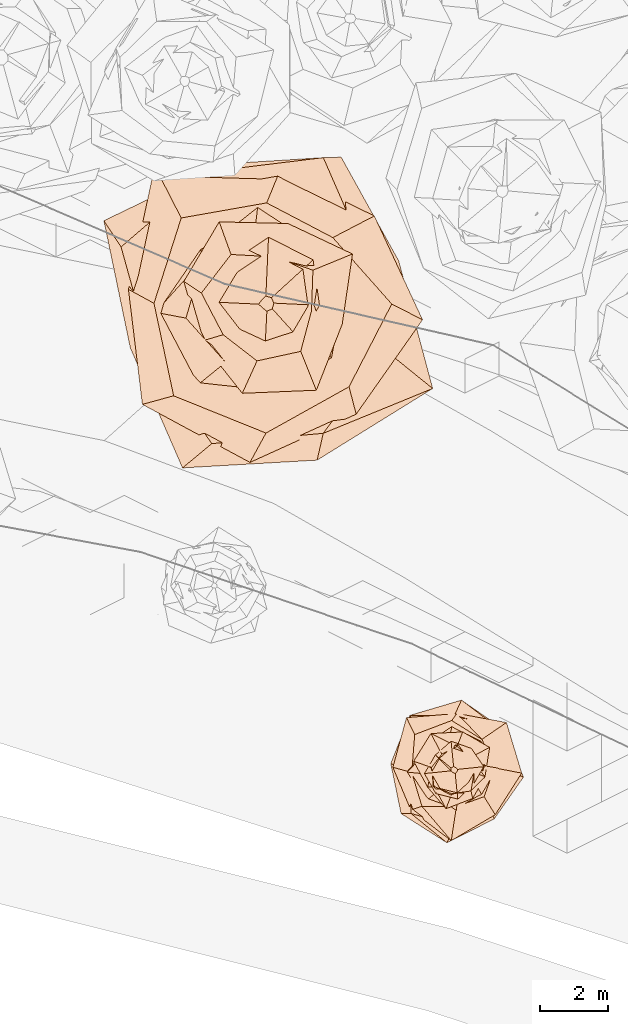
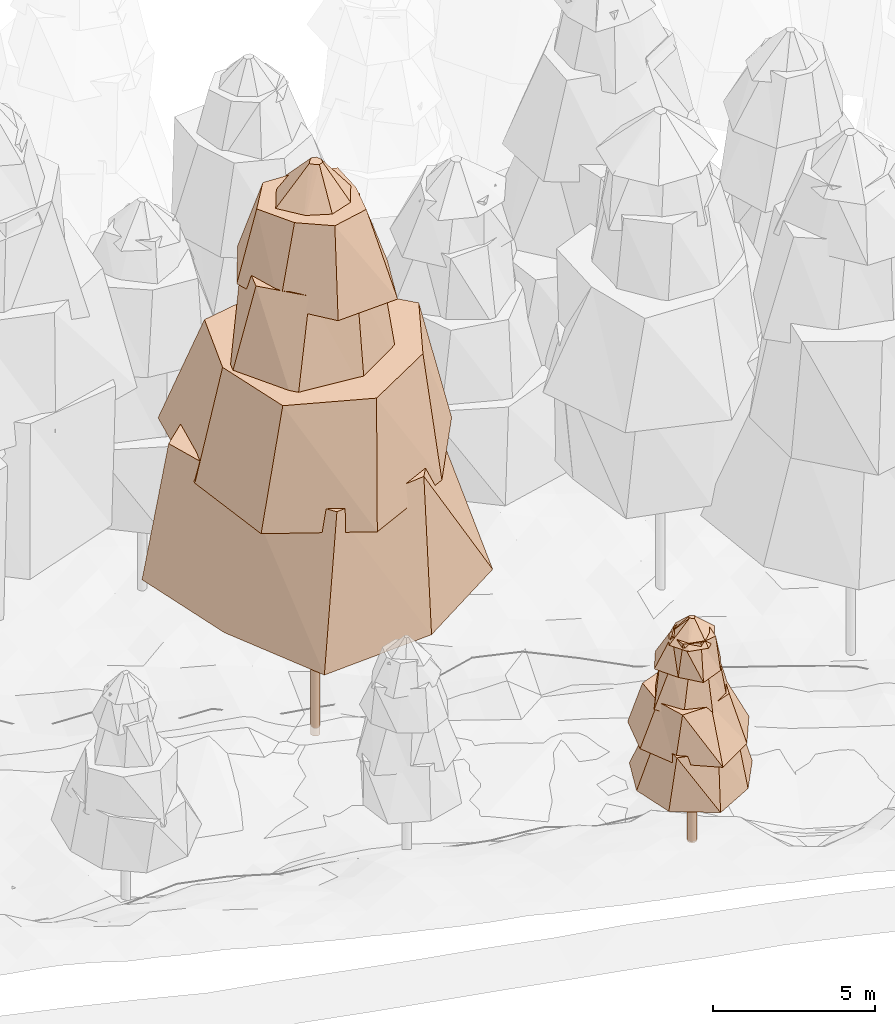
# Not in any storey, part 50 of 88: 2 geographic elements.
"""IFC4 model written with IfcOpenShell, lengths in metres."""

from ifc_helpers import new_model, si_unit, frame, origin_with_axes, place, context, subcontext, project, spatial, circle, extrude, faceted_brep, element, save


model = new_model("IFC4")

# Units and contexts
model_context = context("Model", 3, precision=1e-05, world=origin_with_axes())
body_context = subcontext(model_context, "Body", "Model", "MODEL_VIEW")
ifc_project = project(units=[si_unit("LENGTHUNIT", "METRE"), si_unit("AREAUNIT", "SQUARE_METRE"), si_unit("VOLUMEUNIT", "CUBIC_METRE"), si_unit("PLANEANGLEUNIT", "RADIAN")], contexts=[model_context])

# Sites
site_1_placement = place(None, origin_with_axes())
site_1 = spatial("IfcSite", under=ifc_project, at=site_1_placement, Name="CH907857693633", CompositionType="ELEMENT")
site_2_placement = place(None, origin_with_axes())
site_2 = spatial("IfcSite", under=site_1, at=site_2_placement, Name="Simulated_forest", CompositionType="ELEMENT")

# Geographic elements
geographic_element_1_placement = place(None, frame((184.690816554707, 70.4393623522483, 3.1416015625), z_axis=(0.0, 0.0, 1.0), x_axis=(1.0, 0.0, 0.0)))
element("IfcGeographicElement", 1, at=geographic_element_1_placement, inside=site_2, Name="Tree_SIMULATED_WOODED_AREA", ObjectType="VEGETATION", PredefinedType="USERDEFINED", context=body_context, shape_type="Brep", body=[
    extrude(circle(Radius=0.15), origin_with_axes(), (0.0, 0.0, 1.0), 2.40195365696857),
    faceted_brep([(2.02597223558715, -0.205318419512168, 2.40195365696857), (1.16849866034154, -1.43204606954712, 2.40195365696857), (-0.216378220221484, -2.1351044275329, 2.40195365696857), (-1.56460701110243, -1.2766636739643, 2.40195365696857), (-1.86696859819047, 0.189204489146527, 2.40195365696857), (-1.309375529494, 1.6046968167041, 2.40195365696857), (0.20805114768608, 2.05293733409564, 2.40195365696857), (1.45586411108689, 1.18793333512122, 2.40195365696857), (1.25750459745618, 1.25499628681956, 4.31051613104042), (0.00160708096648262, 1.60976566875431, 4.31051613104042), (-0.900114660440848, 0.901913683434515, 4.31051613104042), (-1.27329548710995, 0.00127117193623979, 4.31051613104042), (-1.27488134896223, -1.27233837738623, 4.31051613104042), (-0.00162413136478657, -1.62684455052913, 4.31051613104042), (1.00443203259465, -1.00643955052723, 4.31051613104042), (1.51371334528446, -0.00151118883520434, 4.31051613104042), (1.45586411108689, 1.18793333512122, 2.40195365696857), (0.20805114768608, 2.05293733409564, 2.40195365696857), (0.00160708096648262, 1.60976566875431, 4.31051613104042), (1.25750459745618, 1.25499628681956, 4.31051613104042), (0.20805114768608, 2.05293733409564, 2.40195365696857), (-1.309375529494, 1.6046968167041, 2.40195365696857), (-0.900114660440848, 0.901913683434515, 4.31051613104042), (0.00160708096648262, 1.60976566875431, 4.31051613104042), (-1.309375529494, 1.6046968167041, 2.40195365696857), (-1.86696859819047, 0.189204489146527, 2.40195365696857), (-1.27329548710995, 0.00127117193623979, 4.31051613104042), (-0.900114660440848, 0.901913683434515, 4.31051613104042), (-1.86696859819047, 0.189204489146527, 2.40195365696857), (-1.56460701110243, -1.2766636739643, 2.40195365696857), (-1.27488134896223, -1.27233837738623, 4.31051613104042), (-1.27329548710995, 0.00127117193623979, 4.31051613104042), (-1.56460701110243, -1.2766636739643, 2.40195365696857), (-0.216378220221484, -2.1351044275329, 2.40195365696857), (-0.00162413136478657, -1.62684455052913, 4.31051613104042), (-1.27488134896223, -1.27233837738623, 4.31051613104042), (-0.216378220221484, -2.1351044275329, 2.40195365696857), (1.16849866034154, -1.43204606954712, 2.40195365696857), (1.00443203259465, -1.00643955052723, 4.31051613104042), (-0.00162413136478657, -1.62684455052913, 4.31051613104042), (1.16849866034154, -1.43204606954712, 2.40195365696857), (2.02597223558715, -0.205318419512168, 2.40195365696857), (1.51371334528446, -0.00151118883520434, 4.31051613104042), (1.00443203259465, -1.00643955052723, 4.31051613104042), (2.02597223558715, -0.205318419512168, 2.40195365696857), (1.45586411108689, 1.18793333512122, 2.40195365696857), (1.25750459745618, 1.25499628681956, 4.31051613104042), (1.51371334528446, -0.00151118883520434, 4.31051613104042)], [[[0, 1, 2, 3, 4, 5, 6, 7]], [[8, 9, 10, 11, 12, 13, 14, 15]], [[16, 17, 18, 19]], [[20, 21, 22, 23]], [[24, 25, 26, 27]], [[28, 29, 30, 31]], [[32, 33, 34, 35]], [[36, 37, 38, 39]], [[40, 41, 42, 43]], [[44, 45, 46, 47]]]),
    faceted_brep([(1.97371579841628, -0.0887684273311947, 4.02423175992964), (1.19687532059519, -1.30960498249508, 4.02423175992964), (-0.0930873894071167, -2.06974547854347, 4.02423175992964), (-1.27992719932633, -1.16975217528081, 4.02423175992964), (-1.80551979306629, 0.0812037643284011, 4.02423175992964), (-1.40604190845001, 1.5384722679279, 4.02423175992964), (0.0747542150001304, 1.66211770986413, 4.02423175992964), (1.52701132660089, 1.39556751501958, 4.02423175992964), (0.807078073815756, 0.901223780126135, 5.68824289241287), (-0.0801288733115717, 1.45396224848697, 5.68824289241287), (-1.16452982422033, 1.04287803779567, 5.68824289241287), (-1.25325137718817, -0.0690675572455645, 5.68824289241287), (-0.952754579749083, -1.06389345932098, 5.68824289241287), (0.0590496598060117, -1.07147364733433, 5.68824289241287), (0.87143882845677, -0.78040458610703, 5.68824289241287), (1.17738788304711, 0.0648866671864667, 5.68824289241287), (1.52701132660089, 1.39556751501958, 4.02423175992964), (0.0747542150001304, 1.66211770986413, 4.02423175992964), (-0.0801288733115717, 1.45396224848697, 5.68824289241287), (0.807078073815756, 0.901223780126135, 5.68824289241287), (0.0747542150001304, 1.66211770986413, 4.02423175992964), (-1.40604190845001, 1.5384722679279, 4.02423175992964), (-1.16452982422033, 1.04287803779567, 5.68824289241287), (-0.0801288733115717, 1.45396224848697, 5.68824289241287), (-1.40604190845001, 1.5384722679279, 4.02423175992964), (-1.80551979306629, 0.0812037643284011, 4.02423175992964), (-1.25325137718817, -0.0690675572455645, 5.68824289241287), (-1.16452982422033, 1.04287803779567, 5.68824289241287), (-1.80551979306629, 0.0812037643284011, 4.02423175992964), (-1.27992719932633, -1.16975217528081, 4.02423175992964), (-0.952754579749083, -1.06389345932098, 5.68824289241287), (-1.25325137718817, -0.0690675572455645, 5.68824289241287), (-1.27992719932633, -1.16975217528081, 4.02423175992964), (-0.0930873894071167, -2.06974547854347, 4.02423175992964), (0.0590496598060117, -1.07147364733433, 5.68824289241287), (-0.952754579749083, -1.06389345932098, 5.68824289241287), (-0.0930873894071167, -2.06974547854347, 4.02423175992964), (1.19687532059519, -1.30960498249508, 4.02423175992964), (0.87143882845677, -0.78040458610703, 5.68824289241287), (0.0590496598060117, -1.07147364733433, 5.68824289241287), (1.19687532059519, -1.30960498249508, 4.02423175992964), (1.97371579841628, -0.0887684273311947, 4.02423175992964), (1.17738788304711, 0.0648866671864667, 5.68824289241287), (0.87143882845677, -0.78040458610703, 5.68824289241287), (1.97371579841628, -0.0887684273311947, 4.02423175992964), (1.52701132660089, 1.39556751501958, 4.02423175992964), (0.807078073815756, 0.901223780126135, 5.68824289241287), (1.17738788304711, 0.0648866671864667, 5.68824289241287)], [[[0, 1, 2, 3, 4, 5, 6, 7]], [[8, 9, 10, 11, 12, 13, 14, 15]], [[16, 17, 18, 19]], [[20, 21, 22, 23]], [[24, 25, 26, 27]], [[28, 29, 30, 31]], [[32, 33, 34, 35]], [[36, 37, 38, 39]], [[40, 41, 42, 43]], [[44, 45, 46, 47]]]),
    faceted_brep([(0.823832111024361, -0.755994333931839, 5.43864122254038), (0.0516734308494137, -1.2033863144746, 5.43864122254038), (-0.82873021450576, -0.903094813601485, 5.43864122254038), (-1.38570908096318, -0.0595023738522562, 5.43864122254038), (-0.871763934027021, 0.799979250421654, 5.43864122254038), (-0.0573092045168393, 1.33463389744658, 5.43864122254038), (0.829050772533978, 0.903444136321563, 5.43864122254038), (1.29007662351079, 0.0553959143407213, 5.43864122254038), (0.881822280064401, 0.126889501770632, 6.92878273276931), (0.456953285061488, 0.610563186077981, 6.92878273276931), (-0.141746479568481, 0.98507127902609, 6.92878273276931), (-0.774905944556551, 0.579949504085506, 6.92878273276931), (-0.813542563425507, -0.117064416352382, 6.92878273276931), (-0.423434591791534, -0.565776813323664, 6.92878273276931), (0.106892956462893, -0.742855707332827, 6.92878273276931), (0.67468443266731, -0.504942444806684, 6.92878273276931), (1.29007662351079, 0.0553959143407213, 5.43864122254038), (0.829050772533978, 0.903444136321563, 5.43864122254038), (0.456953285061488, 0.610563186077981, 6.92878273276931), (0.881822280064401, 0.126889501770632, 6.92878273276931), (0.829050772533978, 0.903444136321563, 5.43864122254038), (-0.0573092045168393, 1.33463389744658, 5.43864122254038), (-0.141746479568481, 0.98507127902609, 6.92878273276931), (0.456953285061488, 0.610563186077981, 6.92878273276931), (-0.0573092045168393, 1.33463389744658, 5.43864122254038), (-0.871763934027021, 0.799979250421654, 5.43864122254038), (-0.774905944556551, 0.579949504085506, 6.92878273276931), (-0.141746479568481, 0.98507127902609, 6.92878273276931), (-0.871763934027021, 0.799979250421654, 5.43864122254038), (-1.38570908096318, -0.0595023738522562, 5.43864122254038), (-0.813542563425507, -0.117064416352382, 6.92878273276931), (-0.774905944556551, 0.579949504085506, 6.92878273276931), (-1.38570908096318, -0.0595023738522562, 5.43864122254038), (-0.82873021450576, -0.903094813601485, 5.43864122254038), (-0.423434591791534, -0.565776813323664, 6.92878273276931), (-0.813542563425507, -0.117064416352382, 6.92878273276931), (-0.82873021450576, -0.903094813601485, 5.43864122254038), (0.0516734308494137, -1.2033863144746, 5.43864122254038), (0.106892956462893, -0.742855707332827, 6.92878273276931), (-0.423434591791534, -0.565776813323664, 6.92878273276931), (0.0516734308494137, -1.2033863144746, 5.43864122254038), (0.823832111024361, -0.755994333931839, 5.43864122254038), (0.67468443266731, -0.504942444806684, 6.92878273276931), (0.106892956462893, -0.742855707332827, 6.92878273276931), (0.823832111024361, -0.755994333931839, 5.43864122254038), (1.29007662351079, 0.0553959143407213, 5.43864122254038), (0.881822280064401, 0.126889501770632, 6.92878273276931), (0.67468443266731, -0.504942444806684, 6.92878273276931)], [[[0, 1, 2, 3, 4, 5, 6, 7]], [[8, 9, 10, 11, 12, 13, 14, 15]], [[16, 17, 18, 19]], [[20, 21, 22, 23]], [[24, 25, 26, 27]], [[28, 29, 30, 31]], [[32, 33, 34, 35]], [[36, 37, 38, 39]], [[40, 41, 42, 43]], [[44, 45, 46, 47]]]),
    faceted_brep([(0.897102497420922, -0.194639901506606, 6.70526150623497), (0.535535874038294, -0.832310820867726, 6.70526150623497), (-0.245815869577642, -1.13297442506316, 6.70526150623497), (-0.783970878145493, -0.504432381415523, 6.70526150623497), (-1.19598322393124, 0.259486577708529, 6.70526150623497), (-0.689489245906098, 1.0715796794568, 6.70526150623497), (0.24293749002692, 1.11970786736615, 6.70526150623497), (1.03286954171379, 0.664581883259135, 6.70526150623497), (0.463956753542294, 0.368890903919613, 7.88087926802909), (0.0793965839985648, 0.695573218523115, 7.88087926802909), (-0.370379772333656, 0.465829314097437, 7.88087926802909), (-0.672279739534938, 0.0767377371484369, 7.88087926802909), (-0.601338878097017, -0.478123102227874, 7.88087926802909), (-0.0794101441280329, -0.695692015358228, 7.88087926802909), (0.486884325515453, -0.612357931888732, 7.88087926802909), (0.578964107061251, -0.0660861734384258, 7.88087926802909), (1.03286954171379, 0.664581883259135, 6.70526150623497), (0.24293749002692, 1.11970786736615, 6.70526150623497), (0.0793965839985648, 0.695573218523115, 7.88087926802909), (0.463956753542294, 0.368890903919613, 7.88087926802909), (0.24293749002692, 1.11970786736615, 6.70526150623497), (-0.689489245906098, 1.0715796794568, 6.70526150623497), (-0.370379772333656, 0.465829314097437, 7.88087926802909), (0.0793965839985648, 0.695573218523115, 7.88087926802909), (-0.689489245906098, 1.0715796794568, 6.70526150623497), (-1.19598322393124, 0.259486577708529, 6.70526150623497), (-0.672279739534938, 0.0767377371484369, 7.88087926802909), (-0.370379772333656, 0.465829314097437, 7.88087926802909), (-1.19598322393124, 0.259486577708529, 6.70526150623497), (-0.783970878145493, -0.504432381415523, 6.70526150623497), (-0.601338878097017, -0.478123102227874, 7.88087926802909), (-0.672279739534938, 0.0767377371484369, 7.88087926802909), (-0.783970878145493, -0.504432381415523, 6.70526150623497), (-0.245815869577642, -1.13297442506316, 6.70526150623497), (-0.0794101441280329, -0.695692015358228, 7.88087926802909), (-0.601338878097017, -0.478123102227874, 7.88087926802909), (-0.245815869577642, -1.13297442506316, 6.70526150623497), (0.535535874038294, -0.832310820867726, 6.70526150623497), (0.486884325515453, -0.612357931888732, 7.88087926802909), (-0.0794101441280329, -0.695692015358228, 7.88087926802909), (0.535535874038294, -0.832310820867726, 6.70526150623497), (0.897102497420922, -0.194639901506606, 6.70526150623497), (0.578964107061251, -0.0660861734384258, 7.88087926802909), (0.486884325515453, -0.612357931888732, 7.88087926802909), (0.897102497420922, -0.194639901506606, 6.70526150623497), (1.03286954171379, 0.664581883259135, 6.70526150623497), (0.463956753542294, 0.368890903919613, 7.88087926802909), (0.578964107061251, -0.0660861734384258, 7.88087926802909)], [[[0, 1, 2, 3, 4, 5, 6, 7]], [[8, 9, 10, 11, 12, 13, 14, 15]], [[16, 17, 18, 19]], [[20, 21, 22, 23]], [[24, 25, 26, 27]], [[28, 29, 30, 31]], [[32, 33, 34, 35]], [[36, 37, 38, 39]], [[40, 41, 42, 43]], [[44, 45, 46, 47]]]),
    faceted_brep([(0.550206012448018, -0.435307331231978, 7.70453660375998), (0.09936665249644, -0.852291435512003, 7.70453660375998), (-0.54522043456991, -0.689130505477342, 7.70453660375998), (-0.879711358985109, -0.102563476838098, 7.70453660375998), (-0.559335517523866, 0.442530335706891, 7.70453660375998), (-0.0987268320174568, 0.846803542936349, 7.70453660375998), (0.501974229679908, 0.63446953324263, 7.70453660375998), (0.860460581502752, 0.100319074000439, 7.70453660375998), (0.0960764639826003, 0.0210878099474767, 8.40693649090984), (0.0437753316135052, 0.0683957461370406, 8.40693649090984), (-0.0235960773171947, 0.107504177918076, 8.40693649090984), (-0.0968941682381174, 0.0620151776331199, 8.40693649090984), (-0.102957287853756, -0.0225980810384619, 8.40693649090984), (-0.0436762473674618, -0.0682409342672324, 8.40693649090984), (0.0240430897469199, -0.10954077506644, 8.40693649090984), (0.0755966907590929, -0.0483841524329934, 8.40693649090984), (0.860460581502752, 0.100319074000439, 7.70453660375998), (0.501974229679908, 0.63446953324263, 7.70453660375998), (0.0437753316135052, 0.0683957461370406, 8.40693649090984), (0.0960764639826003, 0.0210878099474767, 8.40693649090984), (0.501974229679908, 0.63446953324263, 7.70453660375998), (-0.0987268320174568, 0.846803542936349, 7.70453660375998), (-0.0235960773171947, 0.107504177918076, 8.40693649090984), (0.0437753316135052, 0.0683957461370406, 8.40693649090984), (-0.0987268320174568, 0.846803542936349, 7.70453660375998), (-0.559335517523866, 0.442530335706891, 7.70453660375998), (-0.0968941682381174, 0.0620151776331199, 8.40693649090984), (-0.0235960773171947, 0.107504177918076, 8.40693649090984), (-0.559335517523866, 0.442530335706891, 7.70453660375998), (-0.879711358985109, -0.102563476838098, 7.70453660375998), (-0.102957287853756, -0.0225980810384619, 8.40693649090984), (-0.0968941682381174, 0.0620151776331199, 8.40693649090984), (-0.879711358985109, -0.102563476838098, 7.70453660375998), (-0.54522043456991, -0.689130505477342, 7.70453660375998), (-0.0436762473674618, -0.0682409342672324, 8.40693649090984), (-0.102957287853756, -0.0225980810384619, 8.40693649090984), (-0.54522043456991, -0.689130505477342, 7.70453660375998), (0.09936665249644, -0.852291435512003, 7.70453660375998), (0.0240430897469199, -0.10954077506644, 8.40693649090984), (-0.0436762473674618, -0.0682409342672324, 8.40693649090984), (0.09936665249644, -0.852291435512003, 7.70453660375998), (0.550206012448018, -0.435307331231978, 7.70453660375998), (0.0755966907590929, -0.0483841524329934, 8.40693649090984), (0.0240430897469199, -0.10954077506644, 8.40693649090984), (0.550206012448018, -0.435307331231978, 7.70453660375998), (0.860460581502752, 0.100319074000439, 7.70453660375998), (0.0960764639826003, 0.0210878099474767, 8.40693649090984), (0.0755966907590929, -0.0483841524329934, 8.40693649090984)], [[[0, 1, 2, 3, 4, 5, 6, 7]], [[8, 9, 10, 11, 12, 13, 14, 15]], [[16, 17, 18, 19]], [[20, 21, 22, 23]], [[24, 25, 26, 27]], [[28, 29, 30, 31]], [[32, 33, 34, 35]], [[36, 37, 38, 39]], [[40, 41, 42, 43]], [[44, 45, 46, 47]]]),
])
geographic_element_2_placement = place(None, frame((179.173681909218, 84.1255486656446, 0.79241943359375), z_axis=(0.0, 0.0, 1.0), x_axis=(1.0, 0.0, 0.0)))
element("IfcGeographicElement", 2, at=geographic_element_2_placement, inside=site_2, Name="Tree_SIMULATED_FOREST_DENSE", ObjectType="VEGETATION", PredefinedType="USERDEFINED", context=body_context, shape_type="Brep", body=[
    extrude(circle(Radius=0.15), origin_with_axes(), (0.0, 0.0, 1.0), 5.97940122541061),
    faceted_brep([(4.87872126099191, -2.49029499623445, 5.97940122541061), (1.48842941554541, -4.59225420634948, 5.97940122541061), (-2.46030138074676, -4.81996095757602, 5.97940122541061), (-3.99329913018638, -1.29429766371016, 5.97940122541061), (-4.7669515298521, 2.43324324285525, 5.97940122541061), (-1.32742981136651, 4.09552181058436, 5.97940122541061), (2.19398798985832, 4.29822806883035, 5.97940122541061), (3.88132640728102, 1.25800535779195, 5.97940122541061), (2.97027213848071, 1.303115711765, 11.3956371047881), (1.67109693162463, 4.28348846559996, 11.3956371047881), (-1.69848899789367, 3.87147089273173, 11.3956371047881), (-4.26370110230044, 1.66337738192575, 11.3956371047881), (-3.38690626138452, -1.48590114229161, 11.3956371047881), (-1.60266531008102, -4.10807909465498, 11.3956371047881), (1.669049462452, -3.80436754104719, 11.3956371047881), (3.47470274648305, -1.35556921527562, 11.3956371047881), (3.88132640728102, 1.25800535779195, 5.97940122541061), (2.19398798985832, 4.29822806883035, 5.97940122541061), (1.67109693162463, 4.28348846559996, 11.3956371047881), (2.97027213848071, 1.303115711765, 11.3956371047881), (2.19398798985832, 4.29822806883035, 5.97940122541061), (-1.32742981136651, 4.09552181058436, 5.97940122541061), (-1.69848899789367, 3.87147089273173, 11.3956371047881), (1.67109693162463, 4.28348846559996, 11.3956371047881), (-1.32742981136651, 4.09552181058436, 5.97940122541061), (-4.7669515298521, 2.43324324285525, 5.97940122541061), (-4.26370110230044, 1.66337738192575, 11.3956371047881), (-1.69848899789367, 3.87147089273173, 11.3956371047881), (-4.7669515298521, 2.43324324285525, 5.97940122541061), (-3.99329913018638, -1.29429766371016, 5.97940122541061), (-3.38690626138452, -1.48590114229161, 11.3956371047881), (-4.26370110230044, 1.66337738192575, 11.3956371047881), (-3.99329913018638, -1.29429766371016, 5.97940122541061), (-2.46030138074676, -4.81996095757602, 5.97940122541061), (-1.60266531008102, -4.10807909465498, 11.3956371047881), (-3.38690626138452, -1.48590114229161, 11.3956371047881), (-2.46030138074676, -4.81996095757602, 5.97940122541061), (1.48842941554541, -4.59225420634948, 5.97940122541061), (1.669049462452, -3.80436754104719, 11.3956371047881), (-1.60266531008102, -4.10807909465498, 11.3956371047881), (1.48842941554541, -4.59225420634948, 5.97940122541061), (4.87872126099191, -2.49029499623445, 5.97940122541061), (3.47470274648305, -1.35556921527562, 11.3956371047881), (1.669049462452, -3.80436754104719, 11.3956371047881), (4.87872126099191, -2.49029499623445, 5.97940122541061), (3.88132640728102, 1.25800535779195, 5.97940122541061), (2.97027213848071, 1.303115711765, 11.3956371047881), (3.47470274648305, -1.35556921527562, 11.3956371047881)], [[[0, 1, 2, 3, 4, 5, 6, 7]], [[8, 9, 10, 11, 12, 13, 14, 15]], [[16, 17, 18, 19]], [[20, 21, 22, 23]], [[24, 25, 26, 27]], [[28, 29, 30, 31]], [[32, 33, 34, 35]], [[36, 37, 38, 39]], [[40, 41, 42, 43]], [[44, 45, 46, 47]]]),
    faceted_brep([(4.5817176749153, -0.473897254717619, 10.5832017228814), (2.63494272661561, -3.24290120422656, 10.5832017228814), (-0.481792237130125, -4.65804768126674, 10.5832017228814), (-3.63772042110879, -2.95574374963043, 10.5832017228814), (-4.04772445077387, 0.418665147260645, 10.5832017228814), (-3.27493496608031, 4.03055840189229, 10.5832017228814), (0.405767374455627, 3.92302663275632, 10.5832017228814), (3.16689605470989, 2.57318653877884, 10.5832017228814), (1.94978214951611, 1.93786364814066, 14.9304467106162), (0.00906053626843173, 2.95541818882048, 14.9304467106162), (-2.49822519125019, 2.51359010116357, 14.9304467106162), (-3.29742019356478, 0.0101090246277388, 14.9304467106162), (-2.72093121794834, -2.70429888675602, 14.9304467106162), (-0.0116428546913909, -3.79773376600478, 14.9304467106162), (2.42486786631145, -2.43978160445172, 14.9304467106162), (3.67832069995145, -0.0112767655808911, 14.9304467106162), (3.16689605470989, 2.57318653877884, 10.5832017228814), (0.405767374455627, 3.92302663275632, 10.5832017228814), (0.00906053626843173, 2.95541818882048, 14.9304467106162), (1.94978214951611, 1.93786364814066, 14.9304467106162), (0.405767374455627, 3.92302663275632, 10.5832017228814), (-3.27493496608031, 4.03055840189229, 10.5832017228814), (-2.49822519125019, 2.51359010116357, 14.9304467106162), (0.00906053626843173, 2.95541818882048, 14.9304467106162), (-3.27493496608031, 4.03055840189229, 10.5832017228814), (-4.04772445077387, 0.418665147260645, 10.5832017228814), (-3.29742019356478, 0.0101090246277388, 14.9304467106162), (-2.49822519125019, 2.51359010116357, 14.9304467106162), (-4.04772445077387, 0.418665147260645, 10.5832017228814), (-3.63772042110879, -2.95574374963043, 10.5832017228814), (-2.72093121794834, -2.70429888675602, 14.9304467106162), (-3.29742019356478, 0.0101090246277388, 14.9304467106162), (-3.63772042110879, -2.95574374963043, 10.5832017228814), (-0.481792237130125, -4.65804768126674, 10.5832017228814), (-0.0116428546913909, -3.79773376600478, 14.9304467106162), (-2.72093121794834, -2.70429888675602, 14.9304467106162), (-0.481792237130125, -4.65804768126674, 10.5832017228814), (2.63494272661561, -3.24290120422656, 10.5832017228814), (2.42486786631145, -2.43978160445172, 14.9304467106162), (-0.0116428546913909, -3.79773376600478, 14.9304467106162), (2.63494272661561, -3.24290120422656, 10.5832017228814), (4.5817176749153, -0.473897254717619, 10.5832017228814), (3.67832069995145, -0.0112767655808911, 14.9304467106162), (2.42486786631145, -2.43978160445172, 14.9304467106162), (4.5817176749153, -0.473897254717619, 10.5832017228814), (3.16689605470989, 2.57318653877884, 10.5832017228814), (1.94978214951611, 1.93786364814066, 14.9304467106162), (3.67832069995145, -0.0112767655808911, 14.9304467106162)], [[[0, 1, 2, 3, 4, 5, 6, 7]], [[8, 9, 10, 11, 12, 13, 14, 15]], [[16, 17, 18, 19]], [[20, 21, 22, 23]], [[24, 25, 26, 27]], [[28, 29, 30, 31]], [[32, 33, 34, 35]], [[36, 37, 38, 39]], [[40, 41, 42, 43]], [[44, 45, 46, 47]]]),
    faceted_brep([(1.96955968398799, -1.68319091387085, 14.278359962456), (0.212354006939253, -2.70866207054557, 14.278359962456), (-2.09827707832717, -2.45526630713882, 14.278359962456), (-3.25665933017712, -0.255315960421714, 14.278359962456), (-1.93954612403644, 1.65754124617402, 14.278359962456), (-0.235517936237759, 3.00412744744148, 14.278359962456), (1.56318126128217, 1.82913225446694, 14.278359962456), (2.33564292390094, 0.183110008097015, 14.278359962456), (2.16215048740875, 0.38951110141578, 17.9288929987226), (1.02094364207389, 1.46961795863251, 17.9288929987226), (-0.356082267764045, 1.97658923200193, 17.9288929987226), (-1.86162488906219, 1.29327086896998, 17.9288929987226), (-2.3589485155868, -0.424964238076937, 17.9288929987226), (-1.19636002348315, -1.72212461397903, 17.9288929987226), (0.351516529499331, -1.95124511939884, 17.9288929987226), (1.63754032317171, -1.13759931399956, 17.9288929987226), (2.33564292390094, 0.183110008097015, 14.278359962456), (1.56318126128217, 1.82913225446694, 14.278359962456), (1.02094364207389, 1.46961795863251, 17.9288929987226), (2.16215048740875, 0.38951110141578, 17.9288929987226), (1.56318126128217, 1.82913225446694, 14.278359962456), (-0.235517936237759, 3.00412744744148, 14.278359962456), (-0.356082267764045, 1.97658923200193, 17.9288929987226), (1.02094364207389, 1.46961795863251, 17.9288929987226), (-0.235517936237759, 3.00412744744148, 14.278359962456), (-1.93954612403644, 1.65754124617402, 14.278359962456), (-1.86162488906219, 1.29327086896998, 17.9288929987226), (-0.356082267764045, 1.97658923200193, 17.9288929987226), (-1.93954612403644, 1.65754124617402, 14.278359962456), (-3.25665933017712, -0.255315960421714, 14.278359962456), (-2.3589485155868, -0.424964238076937, 17.9288929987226), (-1.86162488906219, 1.29327086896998, 17.9288929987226), (-3.25665933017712, -0.255315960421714, 14.278359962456), (-2.09827707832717, -2.45526630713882, 14.278359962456), (-1.19636002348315, -1.72212461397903, 17.9288929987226), (-2.3589485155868, -0.424964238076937, 17.9288929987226), (-2.09827707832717, -2.45526630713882, 14.278359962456), (0.212354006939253, -2.70866207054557, 14.278359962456), (0.351516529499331, -1.95124511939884, 17.9288929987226), (-1.19636002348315, -1.72212461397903, 17.9288929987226), (0.212354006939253, -2.70866207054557, 14.278359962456), (1.96955968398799, -1.68319091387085, 14.278359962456), (1.63754032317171, -1.13759931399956, 17.9288929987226), (0.351516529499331, -1.95124511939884, 17.9288929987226), (1.96955968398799, -1.68319091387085, 14.278359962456), (2.33564292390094, 0.183110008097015, 14.278359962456), (2.16215048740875, 0.38951110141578, 17.9288929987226), (1.63754032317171, -1.13759931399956, 17.9288929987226)], [[[0, 1, 2, 3, 4, 5, 6, 7]], [[8, 9, 10, 11, 12, 13, 14, 15]], [[16, 17, 18, 19]], [[20, 21, 22, 23]], [[24, 25, 26, 27]], [[28, 29, 30, 31]], [[32, 33, 34, 35]], [[36, 37, 38, 39]], [[40, 41, 42, 43]], [[44, 45, 46, 47]]]),
    faceted_brep([(2.22661416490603, -0.597513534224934, 17.3813130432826), (1.46554855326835, -2.54060196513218, 17.3813130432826), (-0.705956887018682, -2.63072468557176, 17.3813130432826), (-1.9147214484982, -1.10450880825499, 17.3813130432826), (-2.42229549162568, 0.650024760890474, 17.3813130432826), (-1.38385949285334, 2.39898987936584, 17.3813130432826), (0.631026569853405, 2.35149936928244, 17.3813130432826), (2.52589288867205, 1.45706360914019, 17.3813130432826), (1.36593429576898, 0.981816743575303, 20.2276745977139), (0.224571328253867, 1.37259431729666, 20.2276745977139), (-1.03701344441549, 1.44272567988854, 20.2276745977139), (-1.90731866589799, 0.312058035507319, 20.2276745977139), (-1.26842042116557, -0.911724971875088, 20.2276745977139), (-0.27494196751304, -1.68046288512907, 20.2276745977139), (1.00724076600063, -1.40130499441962, 20.2276745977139), (1.32321418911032, -0.216492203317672, 20.2276745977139), (2.52589288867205, 1.45706360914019, 17.3813130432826), (0.631026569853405, 2.35149936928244, 17.3813130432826), (0.224571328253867, 1.37259431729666, 20.2276745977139), (1.36593429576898, 0.981816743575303, 20.2276745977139), (0.631026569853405, 2.35149936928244, 17.3813130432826), (-1.38385949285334, 2.39898987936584, 17.3813130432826), (-1.03701344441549, 1.44272567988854, 20.2276745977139), (0.224571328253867, 1.37259431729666, 20.2276745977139), (-1.38385949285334, 2.39898987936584, 17.3813130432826), (-2.42229549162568, 0.650024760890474, 17.3813130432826), (-1.90731866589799, 0.312058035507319, 20.2276745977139), (-1.03701344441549, 1.44272567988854, 20.2276745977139), (-2.42229549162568, 0.650024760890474, 17.3813130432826), (-1.9147214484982, -1.10450880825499, 17.3813130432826), (-1.26842042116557, -0.911724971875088, 20.2276745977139), (-1.90731866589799, 0.312058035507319, 20.2276745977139), (-1.9147214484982, -1.10450880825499, 17.3813130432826), (-0.705956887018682, -2.63072468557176, 17.3813130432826), (-0.27494196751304, -1.68046288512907, 20.2276745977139), (-1.26842042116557, -0.911724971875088, 20.2276745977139), (-0.705956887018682, -2.63072468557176, 17.3813130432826), (1.46554855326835, -2.54060196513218, 17.3813130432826), (1.00724076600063, -1.40130499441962, 20.2276745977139), (-0.27494196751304, -1.68046288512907, 20.2276745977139), (1.46554855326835, -2.54060196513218, 17.3813130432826), (2.22661416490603, -0.597513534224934, 17.3813130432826), (1.32321418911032, -0.216492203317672, 20.2276745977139), (1.00724076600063, -1.40130499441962, 20.2276745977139), (2.22661416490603, -0.597513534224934, 17.3813130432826), (2.52589288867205, 1.45706360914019, 17.3813130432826), (1.36593429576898, 0.981816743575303, 20.2276745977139), (1.32321418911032, -0.216492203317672, 20.2276745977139)], [[[0, 1, 2, 3, 4, 5, 6, 7]], [[8, 9, 10, 11, 12, 13, 14, 15]], [[16, 17, 18, 19]], [[20, 21, 22, 23]], [[24, 25, 26, 27]], [[28, 29, 30, 31]], [[32, 33, 34, 35]], [[36, 37, 38, 39]], [[40, 41, 42, 43]], [[44, 45, 46, 47]]]),
    faceted_brep([(1.55885366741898, -0.0503023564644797, 19.8007203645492), (0.976799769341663, -1.0419421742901, 19.8007203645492), (-0.0445325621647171, -1.38004961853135, 19.8007203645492), (-0.999712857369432, -0.937210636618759, 19.8007203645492), (-1.76704680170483, 0.0570205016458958, 19.8007203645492), (-1.09575064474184, 1.16882583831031, 19.8007203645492), (0.0628483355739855, 1.94764947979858, 19.8007203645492), (1.37108943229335, 1.28536868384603, 19.8007203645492), (0.149247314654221, 0.170973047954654, 21.5415810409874), (-0.0152448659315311, 0.224697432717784, 21.5415810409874), (-0.131468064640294, 0.114762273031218, 21.5415810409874), (-0.22811380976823, -0.015476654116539, 21.5415810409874), (-0.110998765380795, -0.127156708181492, 21.5415810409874), (0.0151490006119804, -0.223284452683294, 21.5415810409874), (0.17458449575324, -0.152399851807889, 21.5415810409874), (0.218723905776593, 0.0148395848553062, 21.5415810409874), (1.37108943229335, 1.28536868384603, 19.8007203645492), (0.0628483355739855, 1.94764947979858, 19.8007203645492), (-0.0152448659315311, 0.224697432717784, 21.5415810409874), (0.149247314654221, 0.170973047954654, 21.5415810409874), (0.0628483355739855, 1.94764947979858, 19.8007203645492), (-1.09575064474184, 1.16882583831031, 19.8007203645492), (-0.131468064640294, 0.114762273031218, 21.5415810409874), (-0.0152448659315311, 0.224697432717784, 21.5415810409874), (-1.09575064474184, 1.16882583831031, 19.8007203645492), (-1.76704680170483, 0.0570205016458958, 19.8007203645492), (-0.22811380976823, -0.015476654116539, 21.5415810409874), (-0.131468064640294, 0.114762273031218, 21.5415810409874), (-1.76704680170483, 0.0570205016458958, 19.8007203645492), (-0.999712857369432, -0.937210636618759, 19.8007203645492), (-0.110998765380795, -0.127156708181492, 21.5415810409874), (-0.22811380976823, -0.015476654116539, 21.5415810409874), (-0.999712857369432, -0.937210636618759, 19.8007203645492), (-0.0445325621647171, -1.38004961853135, 19.8007203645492), (0.0151490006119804, -0.223284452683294, 21.5415810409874), (-0.110998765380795, -0.127156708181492, 21.5415810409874), (-0.0445325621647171, -1.38004961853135, 19.8007203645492), (0.976799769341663, -1.0419421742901, 19.8007203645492), (0.17458449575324, -0.152399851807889, 21.5415810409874), (0.0151490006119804, -0.223284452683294, 21.5415810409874), (0.976799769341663, -1.0419421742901, 19.8007203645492), (1.55885366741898, -0.0503023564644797, 19.8007203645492), (0.218723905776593, 0.0148395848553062, 21.5415810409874), (0.17458449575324, -0.152399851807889, 21.5415810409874), (1.55885366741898, -0.0503023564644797, 19.8007203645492), (1.37108943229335, 1.28536868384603, 19.8007203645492), (0.149247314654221, 0.170973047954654, 21.5415810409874), (0.218723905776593, 0.0148395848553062, 21.5415810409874)], [[[0, 1, 2, 3, 4, 5, 6, 7]], [[8, 9, 10, 11, 12, 13, 14, 15]], [[16, 17, 18, 19]], [[20, 21, 22, 23]], [[24, 25, 26, 27]], [[28, 29, 30, 31]], [[32, 33, 34, 35]], [[36, 37, 38, 39]], [[40, 41, 42, 43]], [[44, 45, 46, 47]]]),
])

save(model, "model.ifc")
